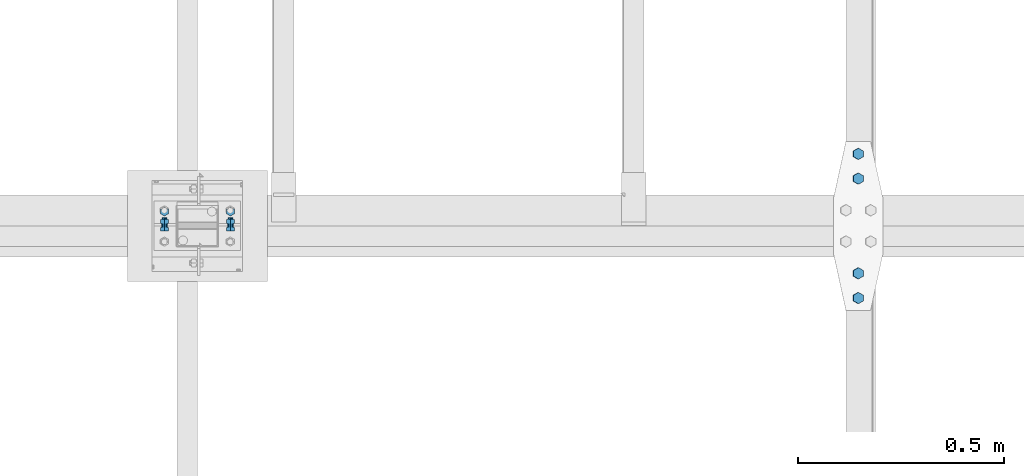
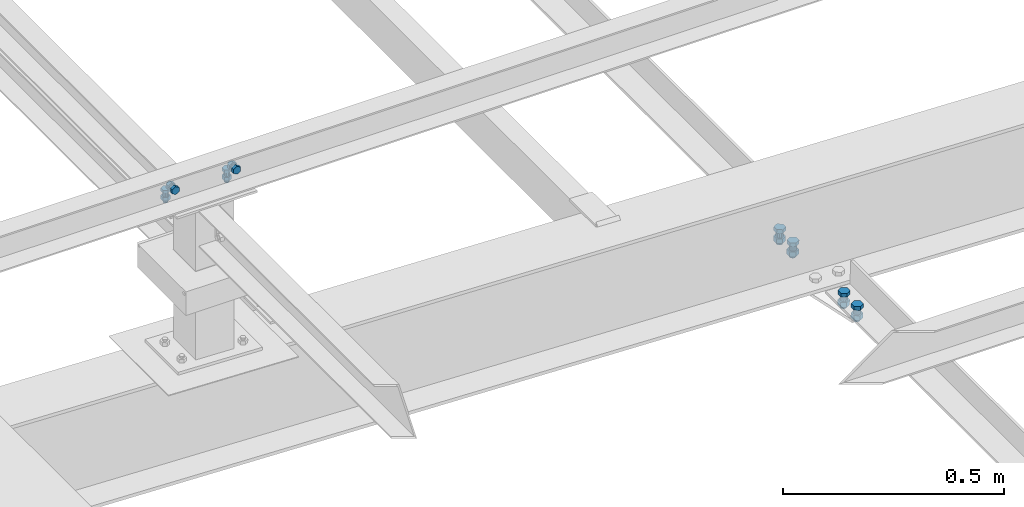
# One storey, part 187 of 3134: 4 mechanical fasteners, 3 elements without a shape of their own.
"""IFC2X3 building model written with IfcOpenShell, lengths in millimetres."""

from ifc_helpers import new_model, si_unit, frame, origin_with_axes, place, context, subcontext, project, spatial, faceted_brep, source, transform, mapped, material, type_object, element, aggregate, save


model = new_model("IFC2X3")

# Units and contexts
model_context = context("Model", 3, precision=1e-05, world=origin_with_axes())
body_context = subcontext(model_context, "Body", "Model", "MODEL_VIEW")
ifc_project = project(units=[si_unit("LENGTHUNIT", "METRE", prefix="MILLI"), si_unit("AREAUNIT", "SQUARE_METRE"), si_unit("VOLUMEUNIT", "CUBIC_METRE"), si_unit("MASSUNIT", "GRAM", prefix="KILO"), si_unit("TIMEUNIT", "SECOND"), si_unit("PLANEANGLEUNIT", "RADIAN"), si_unit("SOLIDANGLEUNIT", "STERADIAN"), si_unit("THERMODYNAMICTEMPERATUREUNIT", "DEGREE_CELSIUS"), si_unit("LUMINOUSINTENSITYUNIT", "LUMEN")], contexts=[model_context])

# Site, building, storey
site_placement = place(None, origin_with_axes())
site = spatial("IfcSite", under=ifc_project, at=site_placement, CompositionType="ELEMENT")
building_placement = place(site_placement, origin_with_axes())
building = spatial("IfcBuilding", under=site, at=building_placement, Name="Undefined", CompositionType="ELEMENT")
storey_placement = place(building_placement, origin_with_axes())
storey = spatial("IfcBuildingStorey", under=building, at=storey_placement, Name="Undefined", CompositionType="ELEMENT", Elevation=0.0)

# Assembly, mechanical fastener
assembly_1_placement = place(storey_placement, origin_with_axes())
assembly_1 = element("IfcElementAssembly", 1, at=assembly_1_placement, inside=storey, AssemblyPlace="NOTDEFINED", PredefinedType="RIGID_FRAME")
ifc_material = material(Name="8.8")
mechanical_fastener_type = type_object("IfcMechanicalFastenerType", Name="Bolt assembly")
shared_shape_1 = source(origin_with_axes(), body_context, "Body", "Brep", [
    faceted_brep([(10.9696551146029, -14.0, 0.0), (5.48482755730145, -14.0, 9.5), (-5.48482755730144, -14.0, 9.5), (-10.9696551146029, -14.0, 1.34339530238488e-15), (-5.48482755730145, -14.0, -9.5), (5.48482755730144, -14.0, -9.50000000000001), (5.48482755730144, -6.0, -9.50000000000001), (-5.48482755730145, -6.0, -9.5), (-10.9696551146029, -6.0, 1.34339530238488e-15), (-5.48482755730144, -6.0, 9.5), (5.48482755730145, -6.0, 9.5), (10.9696551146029, -6.0, 0.0), (6.0, -6.0, 0.0), (5.19615242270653, -6.0, 3.00000000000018), (2.99999999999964, -6.0, 5.19615242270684), (-6.21801588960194e-13, -6.0, 6.0), (-3.00000000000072, -6.0, 5.19615242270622), (-5.19615242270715, -6.0, 2.9999999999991), (-6.0, -6.0, -1.24360317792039e-12), (-5.19615242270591, -6.0, -3.00000000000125), (-2.99999999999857, -6.0, -5.19615242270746), (1.85874342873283e-12, -6.0, -6.0), (3.00000000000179, -6.0, -5.1961524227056), (5.19615242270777, -6.0, -2.99999999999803), (5.19615242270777, 24.0, -2.99999999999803), (3.00000000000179, 24.0, -5.1961524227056), (1.85874342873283e-12, 24.0, -6.0), (-2.99999999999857, 24.0, -5.19615242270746), (-5.19615242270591, 24.0, -3.00000000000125), (-6.0, 24.0, -1.24360317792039e-12), (-5.19615242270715, 24.0, 2.9999999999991), (-3.00000000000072, 24.0, 5.19615242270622), (-6.21801588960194e-13, 24.0, 6.0), (2.99999999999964, 24.0, 5.19615242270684), (5.19615242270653, 24.0, 3.00000000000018), (6.0, 24.0, 0.0), (10.9696551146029, 6.00000000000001, 0.0), (5.48482755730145, 6.00000000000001, 9.5), (-5.48482755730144, 6.00000000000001, 9.5), (-10.9696551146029, 6.00000000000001, 1.34339530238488e-15), (-5.48482755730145, 6.00000000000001, -9.5), (5.48482755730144, 6.00000000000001, -9.50000000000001), (5.48482755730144, 16.0, -9.50000000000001), (-5.48482755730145, 16.0, -9.5), (-10.9696551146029, 16.0, 1.34339530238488e-15), (-5.48482755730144, 16.0, 9.5), (5.48482755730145, 16.0, 9.5), (10.9696551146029, 16.0, 0.0)], [[[0, 1, 2, 3, 4, 5]], [[6, 7, 8, 9, 10, 11]], [[0, 11, 10, 1]], [[1, 10, 9, 2]], [[2, 9, 8, 3]], [[3, 8, 7, 4]], [[4, 7, 6, 5]], [[5, 6, 11, 0]], [[12, 13, 14, 15, 16, 17, 18, 19, 20, 21, 22, 23]], [[24, 25, 26, 27, 28, 29, 30, 31, 32, 33, 34, 35]], [[12, 35, 34, 13]], [[13, 34, 33, 14]], [[14, 33, 32, 15]], [[15, 32, 31, 16]], [[16, 31, 30, 17]], [[17, 30, 29, 18]], [[18, 29, 28, 19]], [[19, 28, 27, 20]], [[20, 27, 26, 21]], [[21, 26, 25, 22]], [[22, 25, 24, 23]], [[23, 24, 35, 12]], [[36, 37, 38, 39, 40, 41]], [[42, 43, 44, 45, 46, 47]], [[36, 47, 46, 37]], [[37, 46, 45, 38]], [[38, 45, 44, 39]], [[39, 44, 43, 40]], [[40, 43, 42, 41]], [[41, 42, 47, 36]]]),
    faceted_brep([(7.0, -0.1, 0.0), (6.06217782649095, -0.1, 3.50000000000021), (3.49999999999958, -0.1, 6.06217782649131), (-7.25435187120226e-13, -0.1, 7.0), (-3.50000000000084, -0.1, 6.06217782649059), (-6.06217782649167, -0.1, 3.49999999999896), (-7.0, -0.1, -1.45087037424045e-12), (-6.06217782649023, -0.1, -3.50000000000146), (-3.49999999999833, -0.1, -6.06217782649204), (2.1685340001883e-12, -0.1, -7.0), (3.50000000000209, -0.1, -6.06217782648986), (6.0621778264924, -0.1, -3.4999999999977), (6.0621778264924, 6.00000000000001, -3.4999999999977), (3.50000000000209, 6.00000000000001, -6.06217782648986), (2.1685340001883e-12, 6.00000000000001, -7.0), (-3.49999999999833, 6.00000000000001, -6.06217782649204), (-6.06217782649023, 6.00000000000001, -3.50000000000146), (-7.0, 6.00000000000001, -1.45087037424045e-12), (-6.06217782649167, 6.00000000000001, 3.49999999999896), (-3.50000000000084, 6.00000000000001, 6.06217782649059), (-7.25435187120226e-13, 6.00000000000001, 7.0), (3.49999999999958, 6.00000000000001, 6.06217782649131), (6.06217782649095, 6.00000000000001, 3.50000000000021), (7.0, 6.00000000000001, 0.0), (7.0, -5.9, 0.0), (6.06217782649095, -5.9, 3.50000000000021), (3.49999999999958, -5.9, 6.06217782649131), (-7.25435187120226e-13, -5.9, 7.0), (-3.50000000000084, -5.9, 6.06217782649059), (-6.06217782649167, -5.9, 3.49999999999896), (-7.0, -5.9, -1.45087037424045e-12), (-6.06217782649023, -5.9, -3.50000000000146), (-3.49999999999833, -5.9, -6.06217782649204), (2.1685340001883e-12, -5.9, -7.0), (3.50000000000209, -5.9, -6.06217782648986), (6.0621778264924, -5.9, -3.4999999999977), (6.0621778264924, 0.0999999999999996, -3.4999999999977), (3.50000000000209, 0.0999999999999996, -6.06217782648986), (2.1685340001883e-12, 0.0999999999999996, -7.0), (-3.49999999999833, 0.0999999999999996, -6.06217782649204), (-6.06217782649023, 0.0999999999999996, -3.50000000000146), (-7.0, 0.0999999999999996, -1.45087037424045e-12), (-6.06217782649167, 0.0999999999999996, 3.49999999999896), (-3.50000000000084, 0.0999999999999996, 6.06217782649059), (-7.25435187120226e-13, 0.0999999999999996, 7.0), (3.49999999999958, 0.0999999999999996, 6.06217782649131), (6.06217782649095, 0.0999999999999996, 3.50000000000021), (7.0, 0.0999999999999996, 0.0)], [[[0, 1, 2, 3, 4, 5, 6, 7, 8, 9, 10, 11]], [[12, 13, 14, 15, 16, 17, 18, 19, 20, 21, 22, 23]], [[0, 23, 22, 1]], [[1, 22, 21, 2]], [[2, 21, 20, 3]], [[3, 20, 19, 4]], [[4, 19, 18, 5]], [[5, 18, 17, 6]], [[6, 17, 16, 7]], [[7, 16, 15, 8]], [[8, 15, 14, 9]], [[9, 14, 13, 10]], [[10, 13, 12, 11]], [[11, 12, 23, 0]], [[24, 25, 26, 27, 28, 29, 30, 31, 32, 33, 34, 35]], [[36, 37, 38, 39, 40, 41, 42, 43, 44, 45, 46, 47]], [[24, 47, 46, 25]], [[25, 46, 45, 26]], [[26, 45, 44, 27]], [[27, 44, 43, 28]], [[28, 43, 42, 29]], [[29, 42, 41, 30]], [[30, 41, 40, 31]], [[31, 40, 39, 32]], [[32, 39, 38, 33]], [[33, 38, 37, 34]], [[34, 37, 36, 35]], [[35, 36, 47, 24]]]),
])
mechanical_fastener_1_placement = place(assembly_1_placement, frame((3043.33, 43043.33, 4365.0), z_axis=(1.0, 0.0, 0.0), x_axis=(0.0, -1.0, 0.0)))
mechanical_fastener_1 = element("IfcMechanicalFastener", 2, at=mechanical_fastener_1_placement, type_object=mechanical_fastener_type, material=ifc_material, Name="Bolt assembly", NominalDiameter=12.0, NominalLength=30.0, context=body_context, shape_type="MappedRepresentation", body=[
    mapped(shared_shape_1, transform((0.0, -5.32963895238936e-10, -79.9999999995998))),
    mapped(shared_shape_1, transform((0.0, 5.3114490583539e-10, 79.9999999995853))),
])

assembly_2_placement = place(storey_placement, origin_with_axes())
assembly_2 = element("IfcElementAssembly", 3, at=assembly_2_placement, inside=storey, Name="PL8", AssemblyPlace="NOTDEFINED", PredefinedType="RIGID_FRAME")
shared_shape_2 = source(origin_with_axes(), body_context, "Body", "Brep", [
    faceted_brep([(13.856406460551, -21.0000017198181, 0.0), (6.92820323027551, -21.0000017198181, 12.0), (-6.92820323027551, -21.0000017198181, 12.0), (-13.856406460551, -21.0000017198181, 1.69692038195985e-15), (-6.92820323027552, -21.0000017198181, -12.0), (6.9282032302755, -21.0000017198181, -12.0), (6.9282032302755, -11.0000017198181, -12.0), (-6.92820323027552, -11.0000017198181, -12.0), (-13.856406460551, -11.0000017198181, 1.69692038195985e-15), (-6.92820323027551, -11.0000017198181, 12.0), (6.92820323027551, -11.0000017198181, 12.0), (13.856406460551, -11.0000017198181, 0.0), (8.0, -11.0000017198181, 0.0), (6.92820323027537, -11.0000017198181, 4.00000000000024), (3.99999999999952, -11.0000017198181, 6.92820323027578), (-8.29068785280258e-13, -11.0000017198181, 8.0), (-4.00000000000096, -11.0000017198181, 6.92820323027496), (-6.9282032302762, -11.0000017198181, 3.99999999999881), (-8.0, -11.0000017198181, -1.65813757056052e-12), (-6.92820323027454, -11.0000017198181, -4.00000000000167), (-3.99999999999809, -11.0000017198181, -6.92820323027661), (2.47832457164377e-12, -11.0000017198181, -8.0), (4.00000000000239, -11.0000017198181, -6.92820323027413), (6.92820323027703, -11.0000017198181, -3.99999999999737), (6.92820323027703, 23.9999999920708, -3.99999999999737), (4.00000000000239, 23.9999999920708, -6.92820323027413), (2.47832457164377e-12, 23.9999999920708, -8.0), (-3.99999999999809, 23.9999999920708, -6.92820323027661), (-6.92820323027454, 23.9999999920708, -4.00000000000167), (-8.0, 23.9999999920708, -1.65813757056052e-12), (-6.9282032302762, 23.9999999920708, 3.99999999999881), (-4.00000000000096, 23.9999999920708, 6.92820323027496), (-8.29068785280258e-13, 23.9999999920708, 8.0), (3.99999999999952, 23.9999999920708, 6.92820323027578), (6.92820323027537, 23.9999999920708, 4.00000000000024), (8.0, 23.9999999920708, 0.0), (13.856406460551, 3.99999999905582, 0.0), (6.92820323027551, 3.99999999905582, 12.0), (-6.92820323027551, 3.99999999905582, 12.0), (-13.856406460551, 3.99999999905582, 1.69692038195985e-15), (-6.92820323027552, 3.99999999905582, -12.0), (6.9282032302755, 3.99999999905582, -12.0), (6.9282032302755, 16.9999999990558, -12.0), (-6.92820323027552, 16.9999999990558, -12.0), (-13.856406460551, 16.9999999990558, 1.69692038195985e-15), (-6.92820323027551, 16.9999999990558, 12.0), (6.92820323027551, 16.9999999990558, 12.0), (13.856406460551, 16.9999999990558, 0.0)], [[[0, 1, 2, 3, 4, 5]], [[6, 7, 8, 9, 10, 11]], [[0, 11, 10, 1]], [[1, 10, 9, 2]], [[2, 9, 8, 3]], [[3, 8, 7, 4]], [[4, 7, 6, 5]], [[5, 6, 11, 0]], [[12, 13, 14, 15, 16, 17, 18, 19, 20, 21, 22, 23]], [[24, 25, 26, 27, 28, 29, 30, 31, 32, 33, 34, 35]], [[12, 35, 34, 13]], [[13, 34, 33, 14]], [[14, 33, 32, 15]], [[15, 32, 31, 16]], [[16, 31, 30, 17]], [[17, 30, 29, 18]], [[18, 29, 28, 19]], [[19, 28, 27, 20]], [[20, 27, 26, 21]], [[21, 26, 25, 22]], [[22, 25, 24, 23]], [[23, 24, 35, 12]], [[36, 37, 38, 39, 40, 41]], [[42, 43, 44, 45, 46, 47]], [[36, 47, 46, 37]], [[37, 46, 45, 38]], [[38, 45, 44, 39]], [[39, 44, 43, 40]], [[40, 43, 42, 41]], [[41, 42, 47, 36]]]),
    faceted_brep([(9.0, -10.9000017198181, 0.0), (7.79422863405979, -10.9000017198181, 4.50000000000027), (4.49999999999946, -10.9000017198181, 7.79422863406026), (-9.3270238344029e-13, -10.9000017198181, 9.0), (-4.50000000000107, -10.9000017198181, 7.79422863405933), (-7.79422863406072, -10.9000017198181, 4.49999999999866), (-9.0, -10.9000017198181, -1.86540476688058e-12), (-7.79422863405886, -10.9000017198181, -4.50000000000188), (-4.49999999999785, -10.9000017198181, -7.79422863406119), (2.78811514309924e-12, -10.9000017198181, -9.0), (4.50000000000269, -10.9000017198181, -7.7942286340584), (7.79422863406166, -10.9000017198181, -4.49999999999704), (7.79422863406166, -3.9, -4.49999999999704), (4.50000000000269, -3.9, -7.7942286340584), (2.78811514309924e-12, -3.9, -9.0), (-4.49999999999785, -3.9, -7.79422863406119), (-7.79422863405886, -3.9, -4.50000000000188), (-9.0, -3.9, -1.86540476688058e-12), (-7.79422863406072, -3.9, 4.49999999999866), (-4.50000000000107, -3.9, 7.79422863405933), (-9.3270238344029e-13, -3.9, 9.0), (4.49999999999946, -3.9, 7.79422863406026), (7.79422863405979, -3.9, 4.50000000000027), (9.0, -3.9, 0.0), (9.0, -4.10000000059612, 0.0), (7.79422863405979, -4.10000000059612, 4.50000000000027), (4.49999999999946, -4.10000000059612, 7.79422863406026), (-9.3270238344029e-13, -4.10000000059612, 9.0), (-4.50000000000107, -4.10000000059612, 7.79422863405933), (-7.79422863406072, -4.10000000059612, 4.49999999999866), (-9.0, -4.10000000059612, -1.86540476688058e-12), (-7.79422863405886, -4.10000000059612, -4.50000000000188), (-4.49999999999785, -4.10000000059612, -7.79422863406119), (2.78811514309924e-12, -4.10000000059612, -9.0), (4.50000000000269, -4.10000000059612, -7.7942286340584), (7.79422863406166, -4.10000000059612, -4.49999999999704), (7.79422863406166, 4.00000375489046, -4.49999999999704), (4.50000000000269, 4.00000375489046, -7.7942286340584), (2.78811514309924e-12, 4.00000375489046, -9.0), (-4.49999999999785, 4.00000375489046, -7.79422863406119), (-7.79422863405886, 4.00000375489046, -4.50000000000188), (-9.0, 4.00000375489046, -1.86540476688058e-12), (-7.79422863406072, 4.00000375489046, 4.49999999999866), (-4.50000000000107, 4.00000375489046, 7.79422863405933), (-9.3270238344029e-13, 4.00000375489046, 9.0), (4.49999999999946, 4.00000375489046, 7.79422863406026), (7.79422863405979, 4.00000375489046, 4.50000000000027), (9.0, 4.00000375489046, 0.0)], [[[0, 1, 2, 3, 4, 5, 6, 7, 8, 9, 10, 11]], [[12, 13, 14, 15, 16, 17, 18, 19, 20, 21, 22, 23]], [[0, 23, 22, 1]], [[1, 22, 21, 2]], [[2, 21, 20, 3]], [[3, 20, 19, 4]], [[4, 19, 18, 5]], [[5, 18, 17, 6]], [[6, 17, 16, 7]], [[7, 16, 15, 8]], [[8, 15, 14, 9]], [[9, 14, 13, 10]], [[10, 13, 12, 11]], [[11, 12, 23, 0]], [[24, 25, 26, 27, 28, 29, 30, 31, 32, 33, 34, 35]], [[36, 37, 38, 39, 40, 41, 42, 43, 44, 45, 46, 47]], [[24, 47, 46, 25]], [[25, 46, 45, 26]], [[26, 45, 44, 27]], [[27, 44, 43, 28]], [[28, 43, 42, 29]], [[29, 42, 41, 30]], [[30, 41, 40, 31]], [[31, 40, 39, 32]], [[32, 39, 38, 33]], [[33, 38, 37, 34]], [[34, 37, 36, 35]], [[35, 36, 47, 24]]]),
])
mechanical_fastener_2_placement = place(assembly_2_placement, frame((4647.50483525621, 43123.33, 3576.15051900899), z_axis=(-0.999388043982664, 0.0, 0.0349791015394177), x_axis=(0.0, 1.0, 0.0)))
mechanical_fastener_2 = element("IfcMechanicalFastener", 4, at=mechanical_fastener_2_placement, type_object=mechanical_fastener_type, material=ifc_material, Name="Bolt assembly", NominalDiameter=16.0, NominalLength=35.0, context=body_context, shape_type="MappedRepresentation", body=[
    mapped(shared_shape_2, transform((0.0, 0.0, 0.0))),
    mapped(shared_shape_2, transform((59.9999999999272, 0.0, 5.40239852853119e-10))),
])
aggregate(assembly_2, [mechanical_fastener_2])

assembly_3_placement = place(storey_placement, origin_with_axes())
assembly_3 = element("IfcElementAssembly", 5, at=assembly_3_placement, inside=storey, AssemblyPlace="NOTDEFINED", PredefinedType="RIGID_FRAME")
shared_shape_3 = source(origin_with_axes(), body_context, "Body", "Brep", [
    faceted_brep([(13.856406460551, -21.0000017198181, 0.0), (6.92820323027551, -21.0000017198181, 12.0), (-6.92820323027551, -21.0000017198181, 12.0), (-13.856406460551, -21.0000017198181, 1.69692038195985e-15), (-6.92820323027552, -21.0000017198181, -12.0), (6.9282032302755, -21.0000017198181, -12.0), (6.9282032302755, -11.0000017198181, -12.0), (-6.92820323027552, -11.0000017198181, -12.0), (-13.856406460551, -11.0000017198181, 1.69692038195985e-15), (-6.92820323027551, -11.0000017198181, 12.0), (6.92820323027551, -11.0000017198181, 12.0), (13.856406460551, -11.0000017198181, 0.0), (8.0, -11.0000017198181, 0.0), (6.92820323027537, -11.0000017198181, 4.00000000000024), (3.99999999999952, -11.0000017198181, 6.92820323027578), (-8.29068785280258e-13, -11.0000017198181, 8.0), (-4.00000000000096, -11.0000017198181, 6.92820323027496), (-6.9282032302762, -11.0000017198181, 3.99999999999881), (-8.0, -11.0000017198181, -1.65813757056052e-12), (-6.92820323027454, -11.0000017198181, -4.00000000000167), (-3.99999999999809, -11.0000017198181, -6.92820323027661), (2.47832457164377e-12, -11.0000017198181, -8.0), (4.00000000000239, -11.0000017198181, -6.92820323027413), (6.92820323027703, -11.0000017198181, -3.99999999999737), (6.92820323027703, 23.9999999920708, -3.99999999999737), (4.00000000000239, 23.9999999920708, -6.92820323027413), (2.47832457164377e-12, 23.9999999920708, -8.0), (-3.99999999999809, 23.9999999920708, -6.92820323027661), (-6.92820323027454, 23.9999999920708, -4.00000000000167), (-8.0, 23.9999999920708, -1.65813757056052e-12), (-6.9282032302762, 23.9999999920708, 3.99999999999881), (-4.00000000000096, 23.9999999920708, 6.92820323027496), (-8.29068785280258e-13, 23.9999999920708, 8.0), (3.99999999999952, 23.9999999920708, 6.92820323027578), (6.92820323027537, 23.9999999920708, 4.00000000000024), (8.0, 23.9999999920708, 0.0), (13.856406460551, 3.99999999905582, 0.0), (6.92820323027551, 3.99999999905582, 12.0), (-6.92820323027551, 3.99999999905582, 12.0), (-13.856406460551, 3.99999999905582, 1.69692038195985e-15), (-6.92820323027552, 3.99999999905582, -12.0), (6.9282032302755, 3.99999999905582, -12.0), (6.9282032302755, 16.9999999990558, -12.0), (-6.92820323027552, 16.9999999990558, -12.0), (-13.856406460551, 16.9999999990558, 1.69692038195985e-15), (-6.92820323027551, 16.9999999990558, 12.0), (6.92820323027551, 16.9999999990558, 12.0), (13.856406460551, 16.9999999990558, 0.0)], [[[0, 1, 2, 3, 4, 5]], [[6, 7, 8, 9, 10, 11]], [[0, 11, 10, 1]], [[1, 10, 9, 2]], [[2, 9, 8, 3]], [[3, 8, 7, 4]], [[4, 7, 6, 5]], [[5, 6, 11, 0]], [[12, 13, 14, 15, 16, 17, 18, 19, 20, 21, 22, 23]], [[24, 25, 26, 27, 28, 29, 30, 31, 32, 33, 34, 35]], [[12, 35, 34, 13]], [[13, 34, 33, 14]], [[14, 33, 32, 15]], [[15, 32, 31, 16]], [[16, 31, 30, 17]], [[17, 30, 29, 18]], [[18, 29, 28, 19]], [[19, 28, 27, 20]], [[20, 27, 26, 21]], [[21, 26, 25, 22]], [[22, 25, 24, 23]], [[23, 24, 35, 12]], [[36, 37, 38, 39, 40, 41]], [[42, 43, 44, 45, 46, 47]], [[36, 47, 46, 37]], [[37, 46, 45, 38]], [[38, 45, 44, 39]], [[39, 44, 43, 40]], [[40, 43, 42, 41]], [[41, 42, 47, 36]]]),
    faceted_brep([(9.0, -4.10000000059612, 0.0), (7.79422863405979, -4.10000000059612, 4.50000000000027), (4.49999999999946, -4.10000000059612, 7.79422863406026), (-9.3270238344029e-13, -4.10000000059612, 9.0), (-4.50000000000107, -4.10000000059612, 7.79422863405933), (-7.79422863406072, -4.10000000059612, 4.49999999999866), (-9.0, -4.10000000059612, -1.86540476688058e-12), (-7.79422863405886, -4.10000000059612, -4.50000000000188), (-4.49999999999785, -4.10000000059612, -7.79422863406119), (2.78811514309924e-12, -4.10000000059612, -9.0), (4.50000000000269, -4.10000000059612, -7.7942286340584), (7.79422863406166, -4.10000000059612, -4.49999999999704), (7.79422863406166, 4.00000375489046, -4.49999999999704), (4.50000000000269, 4.00000375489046, -7.7942286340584), (2.78811514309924e-12, 4.00000375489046, -9.0), (-4.49999999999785, 4.00000375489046, -7.79422863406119), (-7.79422863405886, 4.00000375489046, -4.50000000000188), (-9.0, 4.00000375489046, -1.86540476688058e-12), (-7.79422863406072, 4.00000375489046, 4.49999999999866), (-4.50000000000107, 4.00000375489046, 7.79422863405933), (-9.3270238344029e-13, 4.00000375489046, 9.0), (4.49999999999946, 4.00000375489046, 7.79422863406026), (7.79422863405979, 4.00000375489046, 4.50000000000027), (9.0, 4.00000375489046, 0.0), (9.0, -10.9000017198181, 0.0), (7.79422863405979, -10.9000017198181, 4.50000000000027), (4.49999999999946, -10.9000017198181, 7.79422863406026), (-9.3270238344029e-13, -10.9000017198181, 9.0), (-4.50000000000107, -10.9000017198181, 7.79422863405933), (-7.79422863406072, -10.9000017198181, 4.49999999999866), (-9.0, -10.9000017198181, -1.86540476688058e-12), (-7.79422863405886, -10.9000017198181, -4.50000000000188), (-4.49999999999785, -10.9000017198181, -7.79422863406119), (2.78811514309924e-12, -10.9000017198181, -9.0), (4.50000000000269, -10.9000017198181, -7.7942286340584), (7.79422863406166, -10.9000017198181, -4.49999999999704), (7.79422863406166, -3.9, -4.49999999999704), (4.50000000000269, -3.9, -7.7942286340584), (2.78811514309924e-12, -3.9, -9.0), (-4.49999999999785, -3.9, -7.79422863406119), (-7.79422863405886, -3.9, -4.50000000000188), (-9.0, -3.9, -1.86540476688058e-12), (-7.79422863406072, -3.9, 4.49999999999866), (-4.50000000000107, -3.9, 7.79422863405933), (-9.3270238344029e-13, -3.9, 9.0), (4.49999999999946, -3.9, 7.79422863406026), (7.79422863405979, -3.9, 4.50000000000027), (9.0, -3.9, 0.0)], [[[0, 1, 2, 3, 4, 5, 6, 7, 8, 9, 10, 11]], [[12, 13, 14, 15, 16, 17, 18, 19, 20, 21, 22, 23]], [[0, 23, 22, 1]], [[1, 22, 21, 2]], [[2, 21, 20, 3]], [[3, 20, 19, 4]], [[4, 19, 18, 5]], [[5, 18, 17, 6]], [[6, 17, 16, 7]], [[7, 16, 15, 8]], [[8, 15, 14, 9]], [[9, 14, 13, 10]], [[10, 13, 12, 11]], [[11, 12, 23, 0]], [[24, 25, 26, 27, 28, 29, 30, 31, 32, 33, 34, 35]], [[36, 37, 38, 39, 40, 41, 42, 43, 44, 45, 46, 47]], [[24, 47, 46, 25]], [[25, 46, 45, 26]], [[26, 45, 44, 27]], [[27, 44, 43, 28]], [[28, 43, 42, 29]], [[29, 42, 41, 30]], [[30, 41, 40, 31]], [[31, 40, 39, 32]], [[32, 39, 38, 33]], [[33, 38, 37, 34]], [[34, 37, 36, 35]], [[35, 36, 47, 24]]]),
])
mechanical_fastener_3_placement = place(assembly_3_placement, frame((4647.50483526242, 42833.33, 3576.15051900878), z_axis=(-0.999388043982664, 0.0, 0.0349791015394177), x_axis=(0.0, 1.0, 0.0)))
mechanical_fastener_3 = element("IfcMechanicalFastener", 6, at=mechanical_fastener_3_placement, type_object=mechanical_fastener_type, material=ifc_material, Name="Bolt assembly", NominalDiameter=16.0, NominalLength=35.0, context=body_context, shape_type="MappedRepresentation", body=[
    mapped(shared_shape_3, transform((0.0, 0.0, 0.0))),
    mapped(shared_shape_3, transform((59.9999999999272, 0.0, 5.40239852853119e-10))),
])
aggregate(assembly_3, [mechanical_fastener_3])

# Mechanical fastener
shared_shape_4 = source(origin_with_axes(), body_context, "Body", "Brep", [
    faceted_brep([(10.9696551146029, -12.0003169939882, 0.0), (5.48482755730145, -12.0003169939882, 9.5), (-5.48482755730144, -12.0003169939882, 9.5), (-10.9696551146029, -12.0003169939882, 1.34339530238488e-15), (-5.48482755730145, -12.0003169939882, -9.5), (5.48482755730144, -12.0003169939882, -9.50000000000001), (5.48482755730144, -4.00031699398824, -9.50000000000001), (-5.48482755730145, -4.00031699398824, -9.5), (-10.9696551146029, -4.00031699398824, 1.34339530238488e-15), (-5.48482755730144, -4.00031699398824, 9.5), (5.48482755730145, -4.00031699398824, 9.5), (10.9696551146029, -4.00031699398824, 0.0), (6.0, -4.00031699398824, 0.0), (5.19615242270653, -4.00031699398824, 3.00000000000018), (2.99999999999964, -4.00031699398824, 5.19615242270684), (-6.21801588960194e-13, -4.00031699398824, 6.0), (-3.00000000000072, -4.00031699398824, 5.19615242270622), (-5.19615242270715, -4.00031699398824, 2.9999999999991), (-6.0, -4.00031699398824, -1.24360317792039e-12), (-5.19615242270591, -4.00031699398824, -3.00000000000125), (-2.99999999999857, -4.00031699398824, -5.19615242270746), (1.85874342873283e-12, -4.00031699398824, -6.0), (3.00000000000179, -4.00031699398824, -5.1961524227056), (5.19615242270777, -4.00031699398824, -2.99999999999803), (5.19615242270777, 20.9997148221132, -2.99999999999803), (3.00000000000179, 20.9997148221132, -5.1961524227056), (1.85874342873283e-12, 20.9997148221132, -6.0), (-2.99999999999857, 20.9997148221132, -5.19615242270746), (-5.19615242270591, 20.9997148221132, -3.00000000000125), (-6.0, 20.9997148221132, -1.24360317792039e-12), (-5.19615242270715, 20.9997148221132, 2.9999999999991), (-3.00000000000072, 20.9997148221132, 5.19615242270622), (-6.21801588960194e-13, 20.9997148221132, 6.0), (2.99999999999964, 20.9997148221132, 5.19615242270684), (5.19615242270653, 20.9997148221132, 3.00000000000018), (6.0, 20.9997148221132, 0.0), (10.9696551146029, 6.00000000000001, 0.0), (5.48482755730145, 6.00000000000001, 9.5), (-5.48482755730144, 6.00000000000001, 9.5), (-10.9696551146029, 6.00000000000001, 1.34339530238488e-15), (-5.48482755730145, 6.00000000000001, -9.5), (5.48482755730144, 6.00000000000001, -9.50000000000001), (5.48482755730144, 16.0, -9.50000000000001), (-5.48482755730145, 16.0, -9.5), (-10.9696551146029, 16.0, 1.34339530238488e-15), (-5.48482755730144, 16.0, 9.5), (5.48482755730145, 16.0, 9.5), (10.9696551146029, 16.0, 0.0)], [[[0, 1, 2, 3, 4, 5]], [[6, 7, 8, 9, 10, 11]], [[0, 11, 10, 1]], [[1, 10, 9, 2]], [[2, 9, 8, 3]], [[3, 8, 7, 4]], [[4, 7, 6, 5]], [[5, 6, 11, 0]], [[12, 13, 14, 15, 16, 17, 18, 19, 20, 21, 22, 23]], [[24, 25, 26, 27, 28, 29, 30, 31, 32, 33, 34, 35]], [[12, 35, 34, 13]], [[13, 34, 33, 14]], [[14, 33, 32, 15]], [[15, 32, 31, 16]], [[16, 31, 30, 17]], [[17, 30, 29, 18]], [[18, 29, 28, 19]], [[19, 28, 27, 20]], [[20, 27, 26, 21]], [[21, 26, 25, 22]], [[22, 25, 24, 23]], [[23, 24, 35, 12]], [[36, 37, 38, 39, 40, 41]], [[42, 43, 44, 45, 46, 47]], [[36, 47, 46, 37]], [[37, 46, 45, 38]], [[38, 45, 44, 39]], [[39, 44, 43, 40]], [[40, 43, 42, 41]], [[41, 42, 47, 36]]]),
    faceted_brep([(7.0, -3.90031233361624, 0.0), (6.06217782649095, -3.90027629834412, 3.50000000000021), (3.49999999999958, -3.90031233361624, 6.06217782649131), (-7.25435187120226e-13, -3.90027629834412, 7.0), (-3.50000000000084, -3.90027629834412, 6.06217782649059), (-6.06217782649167, -3.90027629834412, 3.49999999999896), (-7.0, -3.90031233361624, -1.45087037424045e-12), (-6.06217782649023, -3.90027629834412, -3.50000000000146), (-3.49999999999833, -3.90027629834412, -6.06217782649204), (2.1685340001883e-12, -3.90027629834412, -7.0), (3.50000000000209, -3.90027629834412, -6.06217782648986), (6.0621778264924, -3.90031233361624, -3.4999999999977), (6.0621778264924, 0.0996830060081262, -3.4999999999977), (3.50000000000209, 0.0996830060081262, -6.06217782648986), (2.1685340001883e-12, 0.0996830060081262, -7.0), (-3.49999999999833, 0.0996830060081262, -6.06217782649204), (-6.06217782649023, 0.0996830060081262, -3.50000000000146), (-7.0, 0.0996830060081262, -1.45087037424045e-12), (-6.06217782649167, 0.0997148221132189, 3.49999999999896), (-3.50000000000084, 0.0997148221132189, 6.06217782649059), (-7.25435187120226e-13, 0.0996830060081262, 7.0), (3.49999999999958, 0.0996830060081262, 6.06217782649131), (6.06217782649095, 0.0996830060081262, 3.50000000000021), (7.0, 0.0997148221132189, 0.0), (7.0, -0.1, 0.0), (6.06217782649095, -0.1, 3.50000000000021), (3.49999999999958, -0.1, 6.06217782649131), (-7.25435187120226e-13, -0.1, 7.0), (-3.50000000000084, -0.1, 6.06217782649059), (-6.06217782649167, -0.1, 3.49999999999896), (-7.0, -0.1, -1.45087037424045e-12), (-6.06217782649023, -0.1, -3.50000000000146), (-3.49999999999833, -0.1, -6.06217782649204), (2.1685340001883e-12, -0.1, -7.0), (3.50000000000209, -0.1, -6.06217782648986), (6.0621778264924, -0.1, -3.4999999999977), (6.0621778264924, 6.00000000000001, -3.4999999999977), (3.50000000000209, 6.00000000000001, -6.06217782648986), (2.1685340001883e-12, 6.00000000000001, -7.0), (-3.49999999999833, 6.00000000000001, -6.06217782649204), (-6.06217782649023, 6.00000000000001, -3.50000000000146), (-7.0, 6.00000000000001, -1.45087037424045e-12), (-6.06217782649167, 6.00000000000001, 3.49999999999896), (-3.50000000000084, 6.00000000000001, 6.06217782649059), (-7.25435187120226e-13, 6.00000000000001, 7.0), (3.49999999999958, 6.00000000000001, 6.06217782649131), (6.06217782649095, 6.00000000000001, 3.50000000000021), (7.0, 6.00000000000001, 0.0)], [[[0, 1, 2, 3, 4, 5, 6, 7, 8, 9, 10, 11]], [[12, 13, 14, 15, 16, 17, 18, 19, 20, 21, 22, 23]], [[0, 23, 22, 1]], [[1, 22, 21, 2]], [[2, 21, 20, 3]], [[3, 20, 19, 4]], [[4, 19, 18, 5]], [[5, 18, 17, 6]], [[6, 17, 16, 7]], [[7, 16, 15, 8]], [[8, 15, 14, 9]], [[9, 14, 13, 10]], [[10, 13, 12, 11]], [[11, 12, 23, 0]], [[24, 25, 26, 27, 28, 29, 30, 31, 32, 33, 34, 35]], [[36, 37, 38, 39, 40, 41, 42, 43, 44, 45, 46, 47]], [[24, 47, 46, 25]], [[25, 46, 45, 26]], [[26, 45, 44, 27]], [[27, 44, 43, 28]], [[28, 43, 42, 29]], [[29, 42, 41, 30]], [[30, 41, 40, 31]], [[31, 40, 39, 32]], [[32, 39, 38, 33]], [[33, 38, 37, 34]], [[34, 37, 36, 35]], [[35, 36, 47, 24]]]),
])
mechanical_fastener_4_placement = place(assembly_1_placement, frame((3043.33, 43008.33, 4400.0), z_axis=(1.0, 0.0, 0.0), x_axis=(0.0, 0.0, -1.0)))
mechanical_fastener_4 = element("IfcMechanicalFastener", 7, at=mechanical_fastener_4_placement, type_object=mechanical_fastener_type, material=ifc_material, Name="Bolt assembly", NominalDiameter=12.0, NominalLength=25.0, context=body_context, shape_type="MappedRepresentation", body=[
    mapped(shared_shape_4, transform((0.0, -5.32963895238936e-10, -79.9999999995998))),
    mapped(shared_shape_4, transform((0.0, 5.3114490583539e-10, 79.9999999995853))),
])

aggregate(assembly_1, [mechanical_fastener_4, mechanical_fastener_1])

save(model, "model.ifc")
